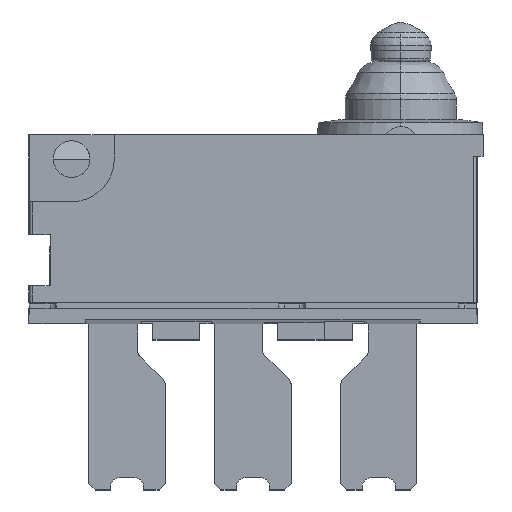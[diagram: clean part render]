
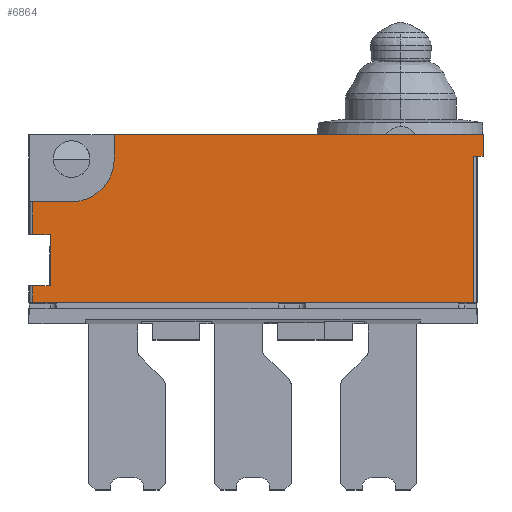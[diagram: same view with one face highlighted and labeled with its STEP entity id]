
A CAD part, top view. The second image highlights one B-rep face of the part: STEP entity #6864.
In plain terms, the highlighted planar face has unit normal (0, 0, 1).
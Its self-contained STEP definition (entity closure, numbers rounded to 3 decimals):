
#29 = VECTOR ( 'NONE', #5841, 1000. ) ;
#81 = LINE ( 'NONE', #2594, #3878 ) ;
#136 = EDGE_CURVE ( 'NONE', #2249, #637, #6521, .T. ) ;
#138 = LINE ( 'NONE', #1920, #4436 ) ;
#194 = EDGE_CURVE ( 'NONE', #5890, #9901, #81, .T. ) ;
#259 = VERTEX_POINT ( 'NONE', #2528 ) ;
#533 = DIRECTION ( 'NONE',  ( 0., 0., -1. ) ) ;
#551 = VECTOR ( 'NONE', #9162, 1000. ) ;
#637 = VERTEX_POINT ( 'NONE', #6336 ) ;
#643 = CARTESIAN_POINT ( 'NONE',  ( -13.1, 12.65, 7.5 ) ) ;
#781 = EDGE_CURVE ( 'NONE', #4567, #259, #1449, .T. ) ;
#825 = VECTOR ( 'NONE', #8536, 1000. ) ;
#1058 = LINE ( 'NONE', #3676, #3205 ) ;
#1126 = ORIENTED_EDGE ( 'NONE', *, *, #5848, .F. ) ;
#1268 = ORIENTED_EDGE ( 'NONE', *, *, #7424, .F. ) ;
#1311 = VECTOR ( 'NONE', #5592, 1000. ) ;
#1343 = VERTEX_POINT ( 'NONE', #9168 ) ;
#1449 = LINE ( 'NONE', #3097, #1952 ) ;
#1485 = CARTESIAN_POINT ( 'NONE',  ( -15.781, 9.375, 7.5 ) ) ;
#1530 = ORIENTED_EDGE ( 'NONE', *, *, #3820, .T. ) ;
#1602 = VECTOR ( 'NONE', #9015, 1000. ) ;
#1855 = LINE ( 'NONE', #8227, #1602 ) ;
#1920 = CARTESIAN_POINT ( 'NONE',  ( -15.2, 8.7, 7.5 ) ) ;
#1952 = VECTOR ( 'NONE', #3053, 1000. ) ;
#2028 = DIRECTION ( 'NONE',  ( 0., 0., 1. ) ) ;
#2102 = CARTESIAN_POINT ( 'NONE',  ( -15.781, 7.15, 7.5 ) ) ;
#2143 = ORIENTED_EDGE ( 'NONE', *, *, #5519, .T. ) ;
#2249 = VERTEX_POINT ( 'NONE', #643 ) ;
#2480 = ORIENTED_EDGE ( 'NONE', *, *, #136, .F. ) ;
#2528 = CARTESIAN_POINT ( 'NONE',  ( -15.781, 10.45, 7.5 ) ) ;
#2594 = CARTESIAN_POINT ( 'NONE',  ( -1., 11.95, 7.5 ) ) ;
#2695 = CARTESIAN_POINT ( 'NONE',  ( -15.9, 10.45, 7.5 ) ) ;
#2716 = LINE ( 'NONE', #4398, #551 ) ;
#2787 = LINE ( 'NONE', #2695, #8920 ) ;
#2941 = CARTESIAN_POINT ( 'NONE',  ( -15.9, 12.05, 7.5 ) ) ;
#3050 = ORIENTED_EDGE ( 'NONE', *, *, #8955, .F. ) ;
#3053 = DIRECTION ( 'NONE',  ( 0., 1., 0. ) ) ;
#3097 = CARTESIAN_POINT ( 'NONE',  ( -15.781, 12.05, 7.5 ) ) ;
#3157 = CARTESIAN_POINT ( 'NONE',  ( -15.781, 12.05, 7.5 ) ) ;
#3205 = VECTOR ( 'NONE', #6872, 1000. ) ;
#3260 = CARTESIAN_POINT ( 'NONE',  ( -15.9, 7.15, 7.5 ) ) ;
#3369 = VECTOR ( 'NONE', #4080, 1000. ) ;
#3451 = EDGE_CURVE ( 'NONE', #4567, #6266, #6470, .T. ) ;
#3676 = CARTESIAN_POINT ( 'NONE',  ( -1., 11.95, 7.5 ) ) ;
#3745 = CARTESIAN_POINT ( 'NONE',  ( -15.2, 9.375, 7.5 ) ) ;
#3776 = EDGE_CURVE ( 'NONE', #259, #9724, #2787, .T. ) ;
#3820 = EDGE_CURVE ( 'NONE', #6266, #8116, #138, .T. ) ;
#3878 = VECTOR ( 'NONE', #7769, 1000. ) ;
#3879 = CARTESIAN_POINT ( 'NONE',  ( -1., 11.95, 7.5 ) ) ;
#4080 = DIRECTION ( 'NONE',  ( -1., 0., 0. ) ) ;
#4383 = VECTOR ( 'NONE', #7182, 1000. ) ;
#4398 = CARTESIAN_POINT ( 'NONE',  ( -15.2, 7.7, 7.5 ) ) ;
#4436 = VECTOR ( 'NONE', #6743, 1000. ) ;
#4567 = VERTEX_POINT ( 'NONE', #1485 ) ;
#5181 = VERTEX_POINT ( 'NONE', #2102 ) ;
#5222 = CIRCLE ( 'NONE', #8332, 1.4 ) ;
#5519 = EDGE_CURVE ( 'NONE', #8116, #7392, #2716, .T. ) ;
#5592 = DIRECTION ( 'NONE',  ( 0., 1., 0. ) ) ;
#5768 = CARTESIAN_POINT ( 'NONE',  ( -15.9, 9.375, 7.5 ) ) ;
#5841 = DIRECTION ( 'NONE',  ( 1., 0., 0. ) ) ;
#5848 = EDGE_CURVE ( 'NONE', #5181, #7392, #10346, .T. ) ;
#5890 = VERTEX_POINT ( 'NONE', #7239 ) ;
#6190 = ORIENTED_EDGE ( 'NONE', *, *, #6193, .F. ) ;
#6193 = EDGE_CURVE ( 'NONE', #637, #9901, #1058, .T. ) ;
#6197 = DIRECTION ( 'NONE',  ( -1., 0., 0. ) ) ;
#6266 = VERTEX_POINT ( 'NONE', #3745 ) ;
#6336 = CARTESIAN_POINT ( 'NONE',  ( -1., 12.65, 7.5 ) ) ;
#6340 = ORIENTED_EDGE ( 'NONE', *, *, #3451, .T. ) ;
#6445 = VERTEX_POINT ( 'NONE', #7889 ) ;
#6470 = LINE ( 'NONE', #5768, #29 ) ;
#6521 = LINE ( 'NONE', #8559, #4383 ) ;
#6743 = DIRECTION ( 'NONE',  ( 0., -1., 0. ) ) ;
#6854 = CARTESIAN_POINT ( 'NONE',  ( -14.5, 11.85, 7.5 ) ) ;
#6864 = ADVANCED_FACE ( 'NONE', ( #8098 ), #9346, .F. ) ;
#6872 = DIRECTION ( 'NONE',  ( 0., -1., 0. ) ) ;
#7182 = DIRECTION ( 'NONE',  ( 1., 0., 0. ) ) ;
#7239 = CARTESIAN_POINT ( 'NONE',  ( -1.319, 11.95, 7.5 ) ) ;
#7303 = ORIENTED_EDGE ( 'NONE', *, *, #781, .F. ) ;
#7380 = ORIENTED_EDGE ( 'NONE', *, *, #194, .T. ) ;
#7392 = VERTEX_POINT ( 'NONE', #8366 ) ;
#7395 = ORIENTED_EDGE ( 'NONE', *, *, #9068, .F. ) ;
#7424 = EDGE_CURVE ( 'NONE', #9724, #6445, #5222, .T. ) ;
#7659 = DIRECTION ( 'NONE',  ( 1., 0., 0. ) ) ;
#7769 = DIRECTION ( 'NONE',  ( 1., 0., 0. ) ) ;
#7889 = CARTESIAN_POINT ( 'NONE',  ( -13.1, 11.85, 7.5 ) ) ;
#8098 = FACE_OUTER_BOUND ( 'NONE', #10398, .T. ) ;
#8116 = VERTEX_POINT ( 'NONE', #8669 ) ;
#8210 = AXIS2_PLACEMENT_3D ( 'NONE', #2941, #533, #6197 ) ;
#8227 = CARTESIAN_POINT ( 'NONE',  ( -1.319, 12.05, 7.5 ) ) ;
#8332 = AXIS2_PLACEMENT_3D ( 'NONE', #6854, #2028, #7659 ) ;
#8366 = CARTESIAN_POINT ( 'NONE',  ( -15.781, 7.7, 7.5 ) ) ;
#8536 = DIRECTION ( 'NONE',  ( 0., 1., 0. ) ) ;
#8559 = CARTESIAN_POINT ( 'NONE',  ( -15.9, 12.65, 7.5 ) ) ;
#8613 = ORIENTED_EDGE ( 'NONE', *, *, #9193, .F. ) ;
#8669 = CARTESIAN_POINT ( 'NONE',  ( -15.2, 7.7, 7.5 ) ) ;
#8850 = LINE ( 'NONE', #10098, #825 ) ;
#8920 = VECTOR ( 'NONE', #9058, 1000. ) ;
#8955 = EDGE_CURVE ( 'NONE', #1343, #5181, #9743, .T. ) ;
#9015 = DIRECTION ( 'NONE',  ( 0., -1., 0. ) ) ;
#9058 = DIRECTION ( 'NONE',  ( 1., 0., 0. ) ) ;
#9068 = EDGE_CURVE ( 'NONE', #5890, #1343, #1855, .T. ) ;
#9162 = DIRECTION ( 'NONE',  ( -1., 0., 0. ) ) ;
#9168 = CARTESIAN_POINT ( 'NONE',  ( -1.319, 7.15, 7.5 ) ) ;
#9193 = EDGE_CURVE ( 'NONE', #6445, #2249, #8850, .T. ) ;
#9206 = CARTESIAN_POINT ( 'NONE',  ( -14.5, 10.45, 7.5 ) ) ;
#9346 = PLANE ( 'NONE',  #8210 ) ;
#9388 = ORIENTED_EDGE ( 'NONE', *, *, #3776, .F. ) ;
#9724 = VERTEX_POINT ( 'NONE', #9206 ) ;
#9743 = LINE ( 'NONE', #3260, #3369 ) ;
#9901 = VERTEX_POINT ( 'NONE', #3879 ) ;
#10098 = CARTESIAN_POINT ( 'NONE',  ( -13.1, 12.05, 7.5 ) ) ;
#10346 = LINE ( 'NONE', #3157, #1311 ) ;
#10398 = EDGE_LOOP ( 'NONE', ( #3050, #7395, #7380, #6190, #2480, #8613, #1268, #9388, #7303, #6340, #1530, #2143, #1126 ) ) ;
